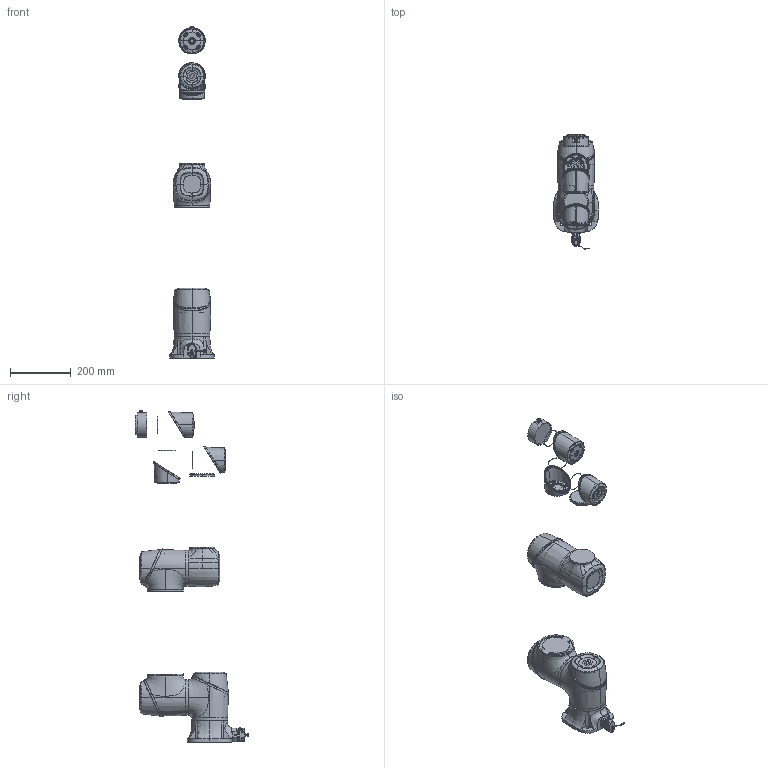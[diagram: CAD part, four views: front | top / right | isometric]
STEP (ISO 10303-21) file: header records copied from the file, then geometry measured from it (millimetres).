
FILE_DESCRIPTION((''),'2;1');
FILE_NAME('CR5A_ASM','2024-11-15T18:16:09',('dobot'),(''),'CREO PARAMETRIC BY PTC INC, 2017260','CREO PARAMETRIC BY PTC INC, 2017260','');
FILE_SCHEMA(('AUTOMOTIVE_DESIGN { 1 0 10303 214 1 1 1 1 }'));
Products named in the file (34): L-ARM_3_CR5-MODLE_2__CR5-MODL_1; L-ARM_3_CR5-MODLE_2__CR5-MODL_3; L-ARM_3_CR5-MODLE_2__CR5-MODL_4; L-ARM_3_CR5-MODLE_2__CR5-MODL_2_ASM; L-ARM_3_CR5-MODLE_2__CR5-MODLE__ASM; 25-TRIM_4_25-JIONT_ASM_4_ASM_CR; 25-BODY_5_25-JIONT_ASM_4_ASM_CR; 25-JIONT_ASM_4_ASM_CR5-MOD-2121_ASM; 14-TRIM_3_14-JIONT_ASM_4_ASM_CR; 14-BODY_6_14-JIONT_ASM_4_ASM_CR; 14-JIONT_ASM_4_ASM_CR5-MO-67998_ASM; BASE__5_CR5-MODLE_2__CR5-MODLE_; FLANGE_2_J6_ASM_7_ASM_CR5-MODLE; J6-TRIM_1_J6_ASM_7_ASM_CR5-MODL; IO_2_J6_ASM_7_ASM_CR5-MODLE_2__; 14-BODY_6_J6_ASM_7_ASM_CR5-MODL; J6_ASM_7_ASM_CR5-MODLE_2__CR5-M_ASM; 25-JIONT_ASM_4_ASM_CR5-MO-65482_ASM; 14-JIONT_ASM_4_ASM_CR5-MO-70461_ASM; 25-JIONT_ASM_4_ASM_CR5-MOD-7525_ASM; U-ARM_2_U-ARM_ASM_3_ASM_CR5-M_1; U-ARM_2_U-ARM_ASM_3_ASM_CR5-M_2; U-ARM_2_U-ARM_ASM_3_ASM_CR5-MOD_ASM; ADAPTE-JIONT_3_U-ARM_ASM_3_ASM_; U-ARM_ASM_3_ASM_CR5-MODLE_2__CR_ASM; PRT0002_1_1_1_1_1_1; CR5A-00_1_1_1_1_1_1; CR5-MODLE_2__CR5-MODLE_ASM_1_AS_ASM; 25--IP68-10001; 3201005086; 14-0001; 3309060042; 3309060044; CR5A_ASM
Assembly tree (43 placements, depth 5):
  CR5A_ASM
    CR5-MODLE_2__CR5-MODLE_ASM_1_AS_ASM
      L-ARM_3_CR5-MODLE_2__CR5-MODLE__ASM
        L-ARM_3_CR5-MODLE_2__CR5-MODL_1
        L-ARM_3_CR5-MODLE_2__CR5-MODL_2_ASM
          L-ARM_3_CR5-MODLE_2__CR5-MODL_3
          L-ARM_3_CR5-MODLE_2__CR5-MODL_4
        L-ARM_3_CR5-MODLE_2__CR5-MODL_3
      25-JIONT_ASM_4_ASM_CR5-MOD-2121_ASM
        25-TRIM_4_25-JIONT_ASM_4_ASM_CR
        25-BODY_5_25-JIONT_ASM_4_ASM_CR
      14-JIONT_ASM_4_ASM_CR5-MO-67998_ASM
        14-TRIM_3_14-JIONT_ASM_4_ASM_CR
        14-BODY_6_14-JIONT_ASM_4_ASM_CR
      BASE__5_CR5-MODLE_2__CR5-MODLE_
      J6_ASM_7_ASM_CR5-MODLE_2__CR5-M_ASM
        FLANGE_2_J6_ASM_7_ASM_CR5-MODLE
        J6-TRIM_1_J6_ASM_7_ASM_CR5-MODL
        IO_2_J6_ASM_7_ASM_CR5-MODLE_2__
        14-BODY_6_J6_ASM_7_ASM_CR5-MODL
      25-JIONT_ASM_4_ASM_CR5-MO-65482_ASM
        25-TRIM_4_25-JIONT_ASM_4_ASM_CR
        25-BODY_5_25-JIONT_ASM_4_ASM_CR
      14-JIONT_ASM_4_ASM_CR5-MO-70461_ASM
        14-TRIM_3_14-JIONT_ASM_4_ASM_CR
        14-BODY_6_14-JIONT_ASM_4_ASM_CR
      25-JIONT_ASM_4_ASM_CR5-MOD-7525_ASM
        25-BODY_5_25-JIONT_ASM_4_ASM_CR
        25-TRIM_4_25-JIONT_ASM_4_ASM_CR
      U-ARM_ASM_3_ASM_CR5-MODLE_2__CR_ASM
        U-ARM_2_U-ARM_ASM_3_ASM_CR5-MOD_ASM
          U-ARM_2_U-ARM_ASM_3_ASM_CR5-M_1
          U-ARM_2_U-ARM_ASM_3_ASM_CR5-M_2
        ADAPTE-JIONT_3_U-ARM_ASM_3_ASM_
      PRT0002_1_1_1_1_1_1
      CR5A-00_1_1_1_1_1_1
    25--IP68-10001  x3
    3201005086
    14-0001  x2
    3309060042
    3309060044
Bounding box: 148 x 374.75 x 1096.5 mm (x, y, z)
Volume: 6652001.6 mm3; surface area: 903349.3 mm2
Topology: 30 solids, 39 shells, 3269 faces, 8088 edges, 5164 vertices
Faces by surface type: plane 1262, bspline 761, cylinder 664, cone 279, extrusion 279, torus 22, revolution 2
Entity records: 150386 total; most frequent: CARTESIAN_POINT 64137, ORIENTED_EDGE 12212, DIRECTION 11174, EDGE_CURVE 6106, PRESENTATION_STYLE_ASSIGNMENT 5821, STYLED_ITEM 5204, AXIS2_PLACEMENT_3D 4021, VERTEX_POINT 3961
